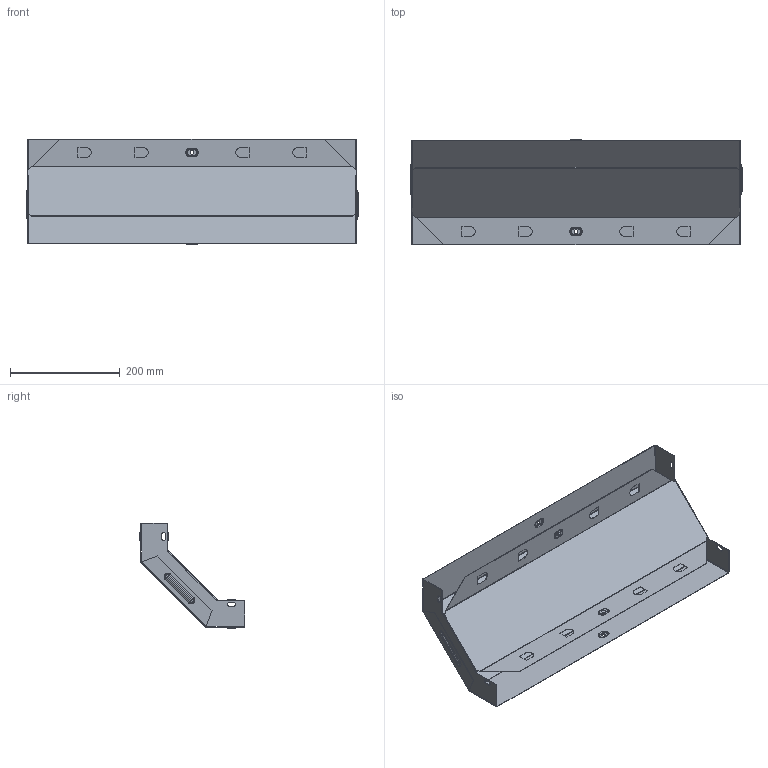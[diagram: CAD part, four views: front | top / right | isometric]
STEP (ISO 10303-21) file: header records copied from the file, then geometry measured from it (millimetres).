
FILE_DESCRIPTION (( 'STEP AP214' ), '1' );
FILE_NAME ('vo9050600_捘.STEP', '2019-06-10T09:08:48', ( '砐錪賧瘔蠈錪 Windows' ), ( '' ), 'SwSTEP 2.0', 'SolidWorks 2018', '' );
FILE_SCHEMA (( 'AUTOMOTIVE_DESIGN' ));
Length unit declared in the file: millimetre
Products named in the file (1): vo9050600_捘
Bounding box: 605.6 x 192.3 x 192.3 mm (x, y, z)
Volume: 277827.7 mm3; surface area: 698618.7 mm2
Topology: 2 solids, 2 shells, 294 faces, 702 edges, 428 vertices
Faces by surface type: plane 116, cylinder 106, torus 64, bspline 8
Entity records: 8725 total; most frequent: CARTESIAN_POINT 1673, DIRECTION 1536, ORIENTED_EDGE 1404, EDGE_CURVE 702, AXIS2_PLACEMENT_3D 579, VERTEX_POINT 428, VECTOR 378, LINE 378
